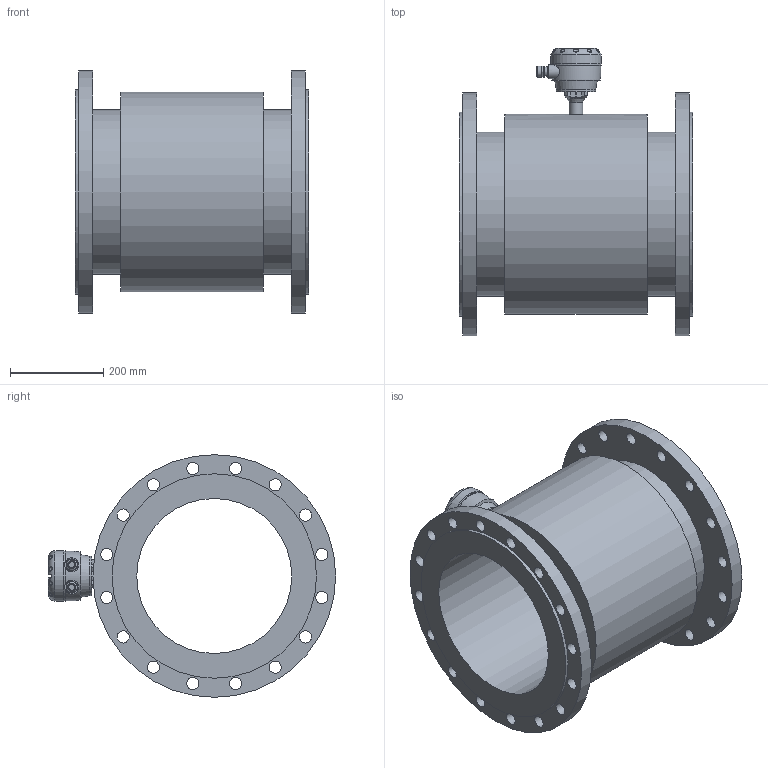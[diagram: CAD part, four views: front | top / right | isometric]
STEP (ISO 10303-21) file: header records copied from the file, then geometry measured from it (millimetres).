
FILE_DESCRIPTION (( 'STEP AP203' ), '1' );
FILE_NAME ('KROHNE_OPTIFLUX_2-4000W_DIN2633_DN350_PN16.STEP', '2011-04-26T11:24:39', ( '' ), ( '' ), 'SwSTEP 2.0', 'SolidWorks 2010', '' );
FILE_SCHEMA (( 'CONFIG_CONTROL_DESIGN' ));
Length unit declared in the file: millimetre
Products named in the file (1): KROHNE_OPTIFLUX_2-4000W_DIN2633_DN350_PN16
Bounding box: 500 x 615.49 x 520 mm (x, y, z)
Volume: 27562015.9 mm3; surface area: 1905391.4 mm2
Topology: 14 solids, 14 shells, 359 faces, 899 edges, 590 vertices
Faces by surface type: plane 158, cylinder 111, bspline 53, torus 18, sphere 13, cone 6
Full cylindrical faces by diameter (mm): 4 x4, 6.6 x8, 13 x2, 20 x2, 23.5 x4, 26 x32, 29 x1, 30 x2, 84 x2, 109 x1, 332 x1, 352 x2, 428 x1, 438 x2, 520 x2
Entity records: 14521 total; most frequent: CARTESIAN_POINT 6574, ORIENTED_EDGE 1522, DIRECTION 1509, EDGE_CURVE 761, AXIS2_PLACEMENT_3D 573, EDGE_LOOP 566, VERTEX_POINT 545, FACE_OUTER_BOUND 442
